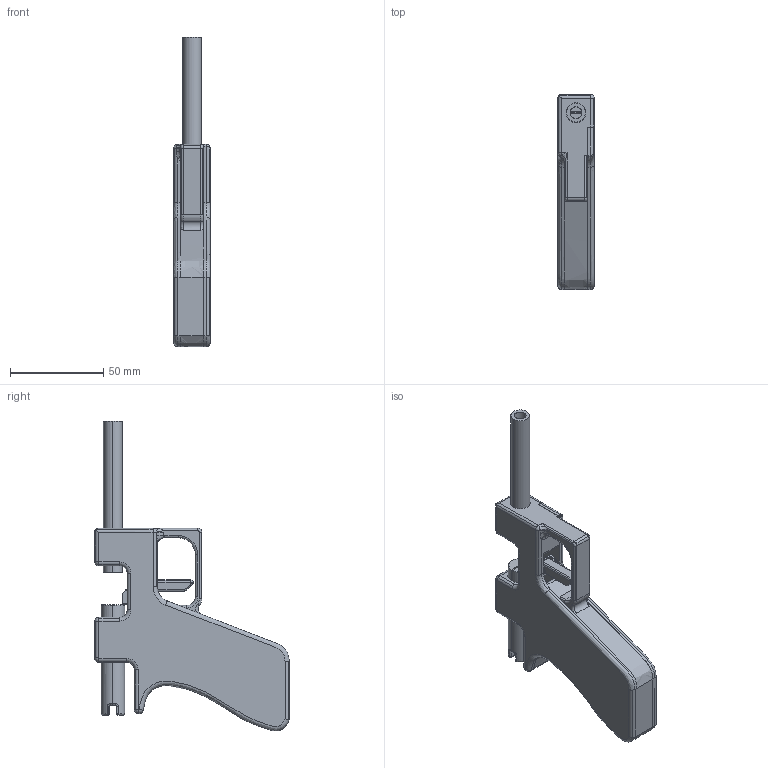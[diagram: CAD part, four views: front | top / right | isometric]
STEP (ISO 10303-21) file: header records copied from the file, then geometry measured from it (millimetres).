
FILE_DESCRIPTION(('STEP AP214'),'1');
FILE_NAME('gun open bolt.stp','2017-02-24T10:02:28',(' '),(' '),'Spatial InterOp 3D',' ',' ');
FILE_SCHEMA(('AUTOMOTIVE_DESIGN { 1 0 10303 214 1 1 1 1 }'));
Length unit declared in the file: metre
Products named in the file (3): gun open bolt; r bands
Assembly tree (2 placements, depth 2):
  gun open bolt
    gun open bolt
    r bands
Bounding box: 19.68 x 104.62 x 166.45 mm (x, y, z)
Volume: 111054.1 mm3; surface area: 41104.7 mm2
Topology: 7 solids, 21 shells, 531 faces, 1392 edges, 873 vertices
Faces by surface type: cylinder 294, plane 96, torus 72, bspline 48, sphere 13, extrusion 8
Entity records: 43764 total; most frequent: CARTESIAN_POINT 26323, DIRECTION 2854, ORIENTED_EDGE 2682, EDGE_CURVE 1369, AXIS2_PLACEMENT_3D 1153, VERTEX_POINT 873, CIRCLE 615, EDGE_LOOP 552
